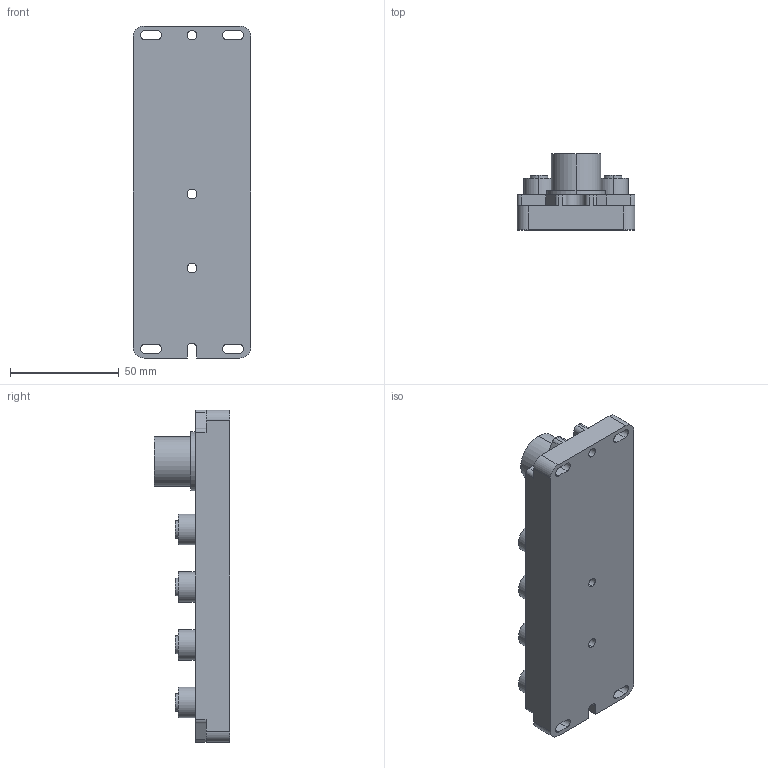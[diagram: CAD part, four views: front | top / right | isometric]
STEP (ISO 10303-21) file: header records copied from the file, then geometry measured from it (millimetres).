
FILE_DESCRIPTION (( 'STEP AP203' ), '1' );
FILE_NAME ('ZF_STEP_BC_2x8AxxxFTK.STEP', '2023-05-18T09:32:38', ( '' ), ( '' ), 'SwSTEP 2.0', 'SolidWorks 2020', '' );
FILE_SCHEMA (( 'CONFIG_CONTROL_DESIGN' ));
Length unit declared in the file: millimetre
Products named in the file (1): ZF_STEP_BC_2x8AxxxFTK
Bounding box: 54 x 34.9 x 152.5 mm (x, y, z)
Volume: 136586.8 mm3; surface area: 34447.1 mm2
Topology: 1 solids, 1 shells, 297 faces, 753 edges, 502 vertices
Faces by surface type: plane 167, cylinder 130
Entity records: 9112 total; most frequent: DIRECTION 1609, CARTESIAN_POINT 1553, ORIENTED_EDGE 1506, EDGE_CURVE 753, AXIS2_PLACEMENT_3D 558, VERTEX_POINT 502, VECTOR 493, LINE 493
